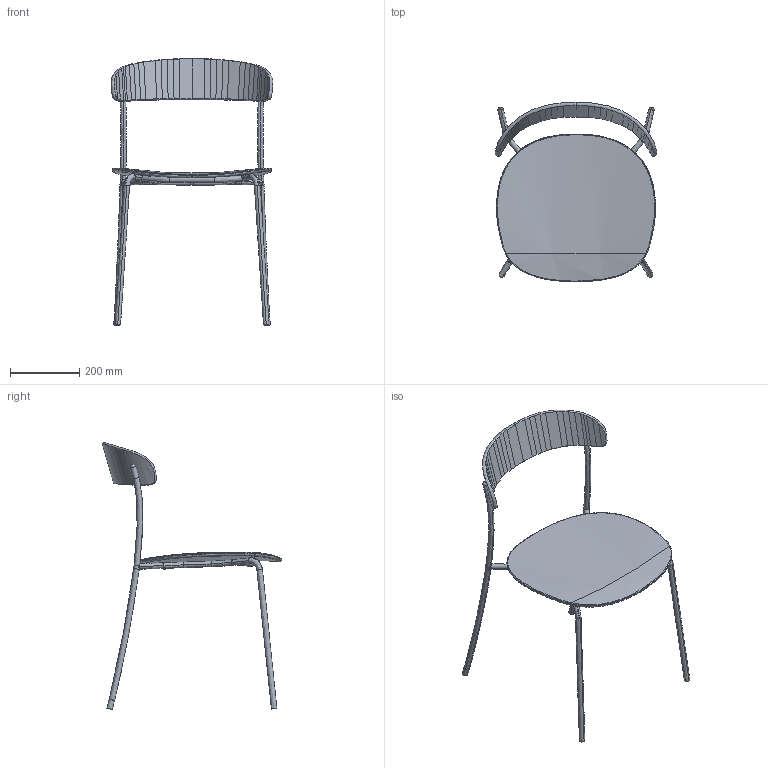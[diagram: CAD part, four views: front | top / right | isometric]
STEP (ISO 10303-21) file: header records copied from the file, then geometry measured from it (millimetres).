
FILE_DESCRIPTION(/* description */ (''),/* implementation_level */ '2;1');
FILE_NAME(/* name */ 'Missing Chair without Armrest',/* time_stamp */ '2020-08-28T23:58:54+02:00',/* author */ (''),/* organization */ (''),/* preprocessor_version */ 'ST-DEVELOPER v15',/* originating_system */ '',/* authorisation */ '');
FILE_SCHEMA (('AUTOMOTIVE_DESIGN'));
Length unit declared in the file: centimetre
Products named in the file (1): Document
Bounding box: 466.34 x 516.9 x 769.62 mm (x, y, z)
Volume: 2960453.4 mm3; surface area: 651344.6 mm2
Topology: 3 solids, 3 shells, 152 faces, 433 edges, 281 vertices
Faces by surface type: bspline 146, plane 6
Entity records: 16655 total; most frequent: CARTESIAN_POINT 14306, ORIENTED_EDGE 858, EDGE_CURVE 429, VERTEX_POINT 281, B_SPLINE_CURVE_WITH_KNOTS 209, ADVANCED_FACE 152, FACE_OUTER_BOUND 152, EDGE_LOOP 152
